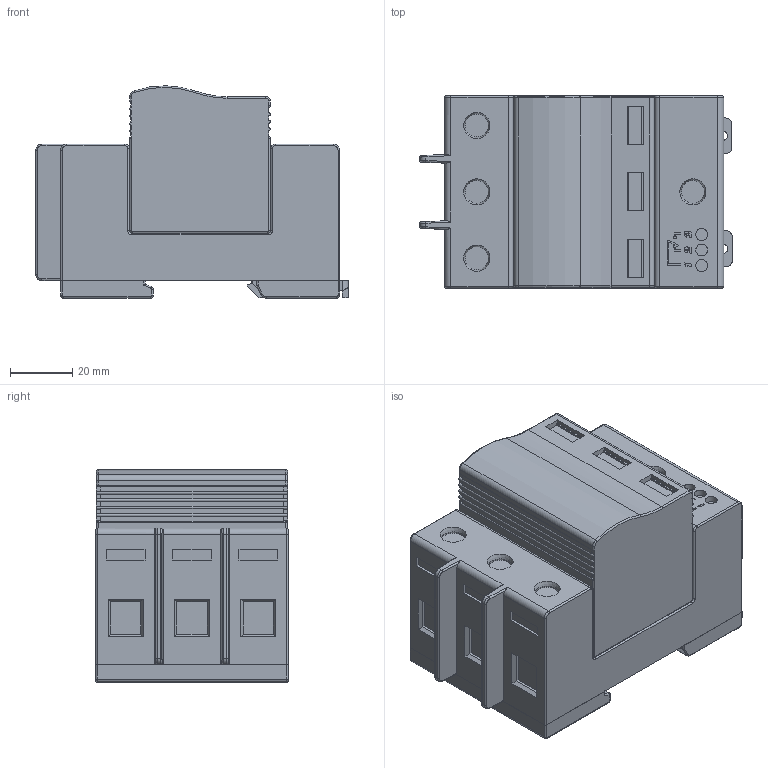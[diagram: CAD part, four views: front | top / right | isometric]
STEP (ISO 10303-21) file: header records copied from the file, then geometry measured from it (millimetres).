
FILE_DESCRIPTION(/* description */ (''),/* implementation_level */ '2;1');
FILE_NAME(/* name */ '3D-MX2023',/* time_stamp */ '2023-11-03T15:18:45+08:00',/* author */ (''),/* organization */ (''),/* preprocessor_version */ 'ST-DEVELOPER v9',/* originating_system */ 'EDS PLM SOLUTIONS - UNIGRAPHICS NX 2.0',/* authorisation */ '');
FILE_SCHEMA (('AUTOMOTIVE_DESIGN { 1 0 10303 214 0 1 1 1 }'));
Length unit declared in the file: millimetre
Products named in the file (1): AdmiF295jbyl
Bounding box: 100.8 x 62 x 68.5 mm (x, y, z)
Volume: 297187.8 mm3; surface area: 73368.3 mm2
Topology: 5 solids, 21 shells, 1222 faces, 3232 edges, 2086 vertices
Faces by surface type: plane 926, cylinder 232, bspline 28, torus 22, sphere 8, cone 4, extrusion 2
Full cylindrical faces by diameter (mm): 3.1 x2, 3.8 x3, 5.8 x4, 7.4 x4, 8.5 x2
Entity records: 37607 total; most frequent: CARTESIAN_POINT 7070, ORIENTED_EDGE 6398, DIRECTION 6144, EDGE_CURVE 3199, VECTOR 2614, LINE 2612, VERTEX_POINT 2080, AXIS2_PLACEMENT_3D 1765
